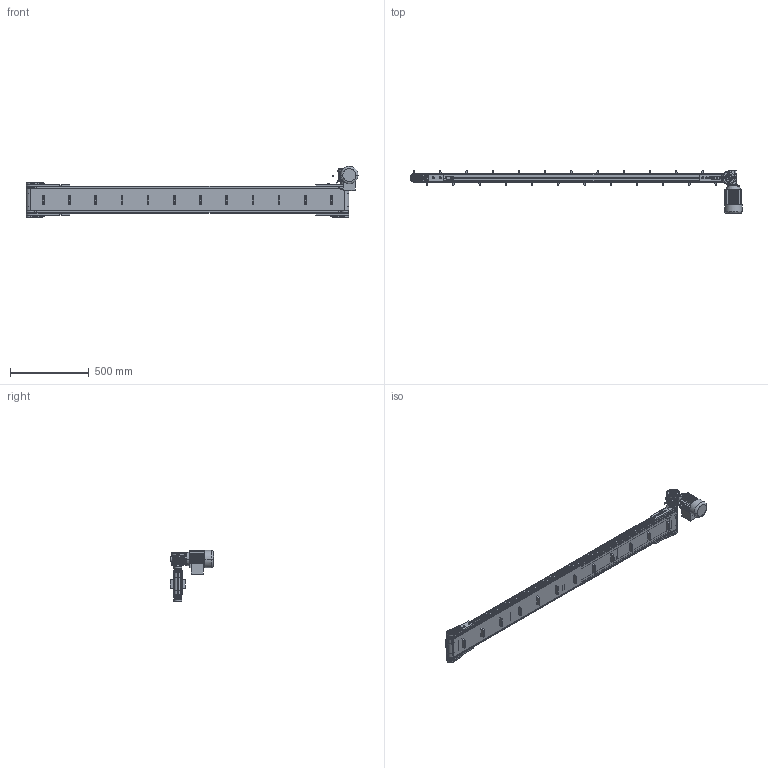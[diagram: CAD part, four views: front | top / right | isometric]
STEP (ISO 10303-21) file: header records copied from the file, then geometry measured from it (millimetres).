
FILE_DESCRIPTION (( 'STEP AP203' ), '1' );
FILE_NAME ('NASTRO_RETTILINEO_TAPPETO.step', '2026-05-04T10:29:23', ( 'Utente Windows' ), ( '' ), 'SwSTEP 2.0', 'SolidWorks 2024', '' );
FILE_SCHEMA (( 'CONFIG_CONTROL_DESIGN' ));
Length unit declared in the file: millimetre
Products named in the file (44): BLOCCO_PERNO_50_RINVIO; VITI TSEI UNI 5933_M5x12 UNI 5933; 084.810.001; VITE_DADO_M5X12; 084.802.071; 084.802.065_Default<A macchina>; VITI TCEI UNI 5931_M6x12 UNI 5931; 084.807.002_084.807.002; VITI TE UNI 5739_M6x16 UNI 5739; TAPPETO_STANDARD; 084.303.001; RULLO_50_Default<A macchina>; TELAIO_50_STANDARD_Default<A macchina>; 084.302.000 DADI ALUSIC 13x13_084.302.004; CHIAVETTE_A 5x5x20 UNI 6604-69; BLOCCO_PERNO_50_30; 084.802.062; VITI TSEI UNI 5933_M4x12 UNI 5933; CHIAVETTE_A 5x5x40 UNI 6604-69; VITI TCEI UNI 5931_M4x25 UNI 5931; LAMIERA_STANDARD; 14UNI7435; 084.301.000 VITI ALUSIC_084.301.009; BLOCCO_RINVIO_50_STANDARD; RONDELLE FASCIA LARGA UNI 6593_5.4x20 UNI 6593; BLOCCO_TRAINO_50_STANDARD; 084.302.000 DADI ALUSIC 13x13-1_084.302.004; 084.301.000 VITI ALUSIC_084.301.003; NASTRO_RETTILINEO_TAPPETO; 084.802.008; VITI TSEI UNI 5933 INOX_0412UNI5933A2; BLOCCO_BRACCIO_CH03P_VF30P; 084.802.017_084.802.017; VITE_RONDELLA_M8X20; 084.808.012; 084.807.003_084.807.003<A macchina>; 084.802.061; 084.811.004; 084.811.001; 084.803.018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
Assembly tree (91 placements, depth 4):
  NASTRO_RETTILINEO_TAPPETO
    TAPPETO_STANDARD
    TELAIO_50_STANDARD_Default<A macchina>
    LAMIERA_STANDARD
    RULLO_50_Default<A macchina>  x2
    BLOCCO_PERNO_50_30
      084.810.001
      084.811.001
      RONDELLE FASCIA LARGA UNI 6593_5.4x20 UNI 6593
      084.301.000 VITI ALUSIC_084.301.009
      CHIAVETTE_A 5x5x40 UNI 6604-69
      CHIAVETTE_A 5x5x20 UNI 6604-69
      14UNI7435
    BLOCCO_TRAINO_50_STANDARD_30_DX
      084.807.003_084.807.003<A macchina>
      084.802.017_084.802.017
      084.301.000 VITI ALUSIC_084.301.003  x2
      084.302.000 DADI ALUSIC 13x13-1_084.302.004  x2
      BLOCCO_BRACCIO_CH03P_VF30P
        084.808.012
        084.802.062
        084.802.061
        VITI TE UNI 5739_M6x16 UNI 5739  x4
        084.803.018
        VITI TCEI UNI 5931_M6x12 UNI 5931  x4
      084.802.065_Default<A macchina>
      VITI TCEI UNI 5931_M4x25 UNI 5931  x2
    BLOCCO_PERNO_50_RINVIO  x3
      084.811.004
      084.810.001
    BLOCCO_TRAINO_50_STANDARD
      084.807.002_084.807.002
      084.802.017_084.802.017
      084.301.000 VITI ALUSIC_084.301.003  x2
      084.302.000 DADI ALUSIC 13x13-1_084.302.004  x2
      VITI TSEI UNI 5933_M4x12 UNI 5933  x4
      084.802.071
      VITI TSEI UNI 5933 INOX_0412UNI5933A2  x2
    BLOCCO_RINVIO_50_STANDARD  x2
      084.807.002_084.807.002
      084.802.017_084.802.017
      084.802.008
      084.301.000 VITI ALUSIC_084.301.003
      084.302.000 DADI ALUSIC 13x13_084.302.004
      VITI TSEI UNI 5933_M4x10 UNI 5933
      084.802.071
    VITE_RONDELLA_M8X20  x7
      084.303.001
      084.301.000 VITI ALUSIC_084.301.003
    VITE_DADO_M5X12  x10
      084.302.000 DADI ALUSIC 13x13-1_084.302.007
      VITI TSEI UNI 5933_M5x12 UNI 5933
    CH03P_DX
Bounding box: 2112 x 274.07 x 325 mm (x, y, z)
Volume: 7132723.7 mm3; surface area: 5057766.5 mm2
Topology: 160 solids, 166 shells, 6982 faces, 17997 edges, 11521 vertices
Faces by surface type: plane 3509, cylinder 2005, cone 583, bspline 506, torus 341, sphere 38
Entity records: 153451 total; most frequent: CARTESIAN_POINT 43414, ORIENTED_EDGE 22628, DIRECTION 20699, EDGE_CURVE 11314, VERTEX_POINT 7290, AXIS2_PLACEMENT_3D 7045, LINE 6609, VECTOR 6609
